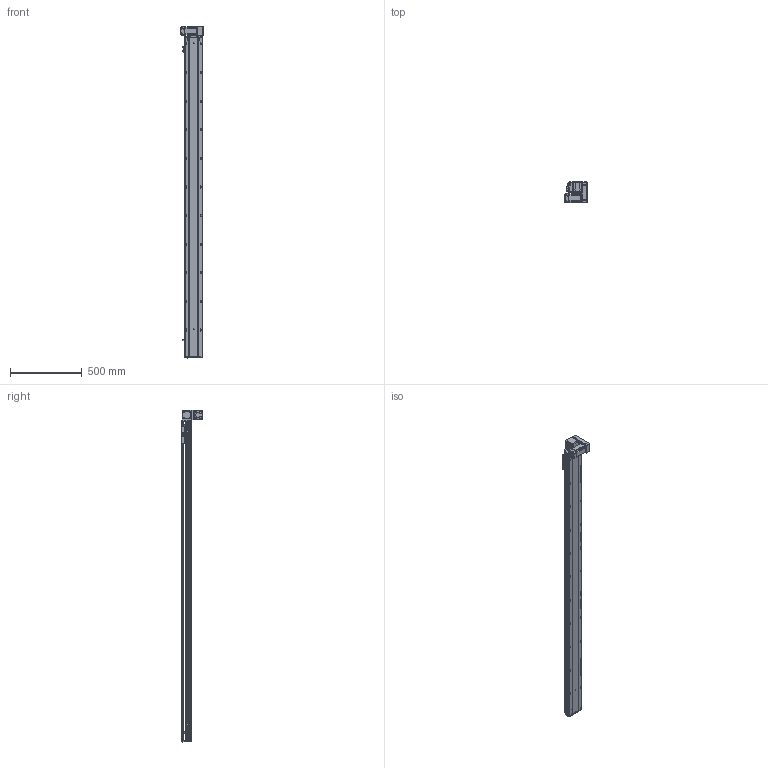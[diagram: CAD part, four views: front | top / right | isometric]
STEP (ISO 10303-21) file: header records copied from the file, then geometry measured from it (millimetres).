
FILE_DESCRIPTION (( 'STEP AP203' ), '1' );
FILE_NAME ('RY120-T-300-DR.SLDASM_2000.step', '2021-03-01T03:37:29', ( '盈信电脑' ), ( '东莞市道滘镇水果街19号' ), 'SwSTEP 2.0', 'SolidWorks 2012', '' );
FILE_SCHEMA (( 'CONFIG_CONTROL_DESIGN' ));
Length unit declared in the file: millimetre
Products named in the file (17): RY120-T萇儂假蚾啣; RY120-T萇儂欶; RY120-T蹟翐M4; 15; RY120-T-300-DR.SLDASM_2000; RY120-T主同步轮轴承压盖; RY120-T翋肮祭盓傅釱; RY120-T翋肮祭謫裔啣; 滅袉蝶18-10; RY120-T肮祭湍揤踡輸2; 覜茼ん672; RY120外置感应片(140共用）; RY120-T肮祭湍揤踡輸1; RY120綴裔啣; RY120-T-300-DR倰第菁釱_2000; RY120-T-300-DR倰第奻裔啣_2000; RY120肮祭湍臏賑輸
Assembly tree (22 placements, depth 2):
  RY120-T-300-DR.SLDASM_2000
    RY120-T-300-DR倰第菁釱_2000
    RY120-T-300-DR倰第奻裔啣_2000
    RY120肮祭湍臏賑輸
    RY120綴裔啣
    覜茼ん672  x3
    RY120外置感应片(140共用）
    RY120-T肮祭湍揤踡輸1
    RY120-T肮祭湍揤踡輸2
    RY120-T翋肮祭盓傅釱
    滅袉蝶18-10  x2
    RY120-T翋肮祭謫裔啣
    15
    RY120-T萇儂假蚾啣
    RY120-T蹟翐M4  x4
    RY120-T萇儂欶
    RY120-T主同步轮轴承压盖
Bounding box: 155.5 x 150 x 2321 mm (x, y, z)
Volume: 5806454.7 mm3; surface area: 2218300.1 mm2
Topology: 23 solids, 23 shells, 3116 faces, 8528 edges, 5432 vertices
Faces by surface type: plane 1452, cylinder 1250, cone 325, bspline 89
Entity records: 100265 total; most frequent: CARTESIAN_POINT 26230, ORIENTED_EDGE 15344, DIRECTION 14470, EDGE_CURVE 7672, VERTEX_POINT 5019, AXIS2_PLACEMENT_3D 4919, VECTOR 4632, LINE 4632
